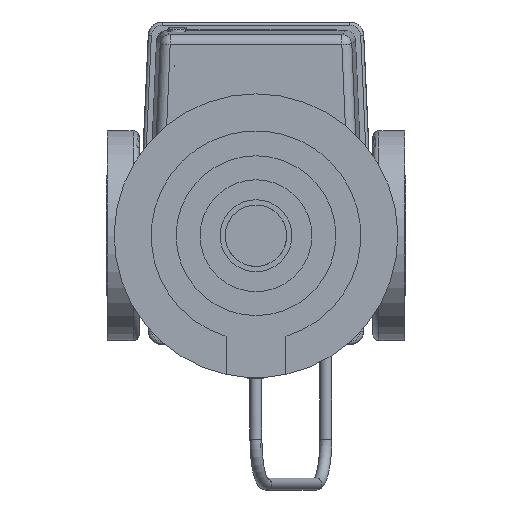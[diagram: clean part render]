
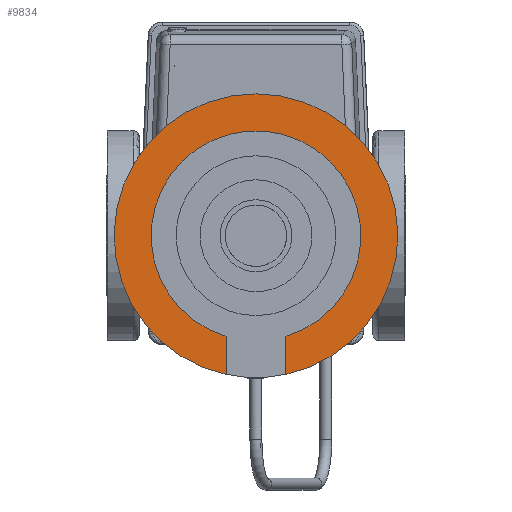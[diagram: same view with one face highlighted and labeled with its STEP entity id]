
A CAD part, front view. The second image highlights one B-rep face of the part: STEP entity #9834.
In plain terms, the highlighted planar face has unit normal (0, -1, 0).
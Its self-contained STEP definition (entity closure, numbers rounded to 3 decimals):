
#695=LINE('',#14666,#1067);
#696=LINE('',#14668,#1068);
#1067=VECTOR('',#12321,1000.);
#1068=VECTOR('',#12322,1000.);
#1246=PLANE('',#10577);
#2633=ORIENTED_EDGE('',*,*,#3891,.T.);
#2634=ORIENTED_EDGE('',*,*,#3887,.T.);
#2635=ORIENTED_EDGE('',*,*,#3892,.T.);
#2636=ORIENTED_EDGE('',*,*,#3893,.F.);
#3887=EDGE_CURVE('',#4613,#4616,#5079,.T.);
#3891=EDGE_CURVE('',#4620,#4613,#695,.T.);
#3892=EDGE_CURVE('',#4616,#4621,#696,.T.);
#3893=EDGE_CURVE('',#4620,#4621,#5082,.T.);
#4613=VERTEX_POINT('',#14640);
#4616=VERTEX_POINT('',#14645);
#4620=VERTEX_POINT('',#14667);
#4621=VERTEX_POINT('',#14669);
#5079=CIRCLE('',#10572,52.5);
#5082=CIRCLE('',#10578,71.);
#5567=EDGE_LOOP('',(#2633,#2634,#2635,#2636));
#6140=FACE_BOUND('',#5567,.T.);
#9834=ADVANCED_FACE('',(#6140),#1246,.F.);
#10572=AXIS2_PLACEMENT_3D('',#14646,#12309,#12310);
#10577=AXIS2_PLACEMENT_3D('',#14665,#12319,#12320);
#10578=AXIS2_PLACEMENT_3D('',#14670,#12323,#12324);
#12309=DIRECTION('',(0.,1.,0.));
#12310=DIRECTION('',(0.,0.,-1.));
#12319=DIRECTION('',(0.,1.,0.));
#12320=DIRECTION('',(0.,0.,1.));
#12321=DIRECTION('',(0.,0.,1.));
#12322=DIRECTION('',(0.,0.,-1.));
#12323=DIRECTION('',(0.,1.,0.));
#12324=DIRECTION('',(0.,0.,-1.));
#14640=CARTESIAN_POINT('',(-242.965,-22.9,-50.312));
#14645=CARTESIAN_POINT('',(-212.965,-22.9,-50.312));
#14646=CARTESIAN_POINT('',(-227.965,-22.9,0.));
#14665=CARTESIAN_POINT('',(-227.965,-22.9,0.));
#14666=CARTESIAN_POINT('',(-242.965,-22.9,0.));
#14667=CARTESIAN_POINT('',(-242.965,-22.9,-69.397));
#14668=CARTESIAN_POINT('',(-212.965,-22.9,0.));
#14669=CARTESIAN_POINT('',(-212.965,-22.9,-69.397));
#14670=CARTESIAN_POINT('',(-227.965,-22.9,0.));
